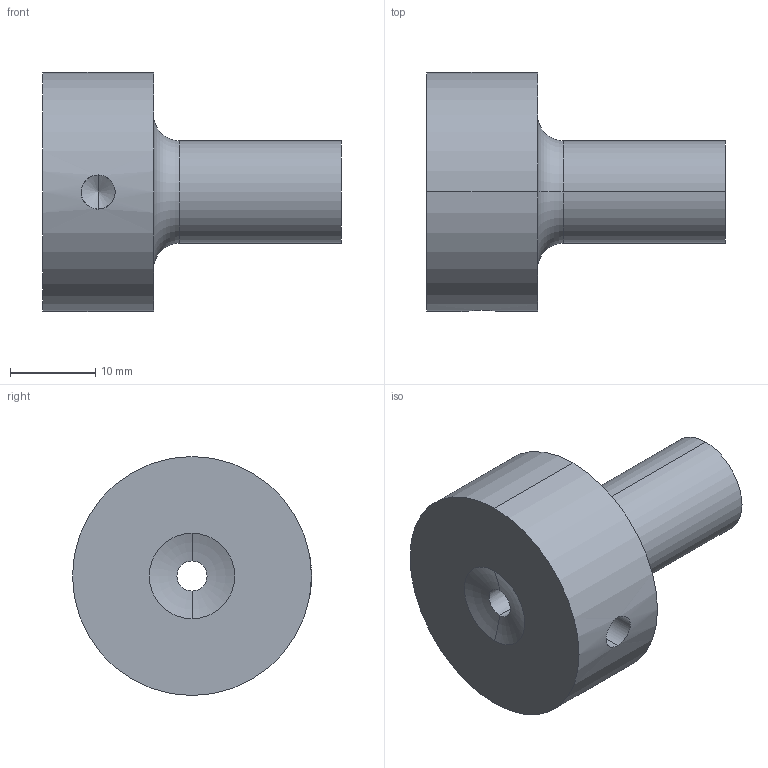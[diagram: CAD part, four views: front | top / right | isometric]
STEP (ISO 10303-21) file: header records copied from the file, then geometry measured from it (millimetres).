
FILE_DESCRIPTION (( 'STEP AP214' ), '1' );
FILE_NAME ('BR511 12X27X2,5X15,5.STEP', '2019-12-10T17:51:31', ( 'August' ), ( '' ), 'SwSTEP 2.0', 'SolidWorks 2018', '' );
FILE_SCHEMA (( 'AUTOMOTIVE_DESIGN' ));
Length unit declared in the file: millimetre
Products named in the file (1): BR511 12X27X2,5X15,5
Bounding box: 35 x 28 x 28 mm (x, y, z)
Volume: 9997 mm3; surface area: 3654.5 mm2
Topology: 1 solids, 1 shells, 17 faces, 36 edges, 21 vertices
Faces by surface type: cylinder 6, cone 4, torus 4, plane 3
Entity records: 538 total; most frequent: CARTESIAN_POINT 127, DIRECTION 90, ORIENTED_EDGE 68, AXIS2_PLACEMENT_3D 40, EDGE_CURVE 34, CIRCLE 22, VERTEX_POINT 21, EDGE_LOOP 21
